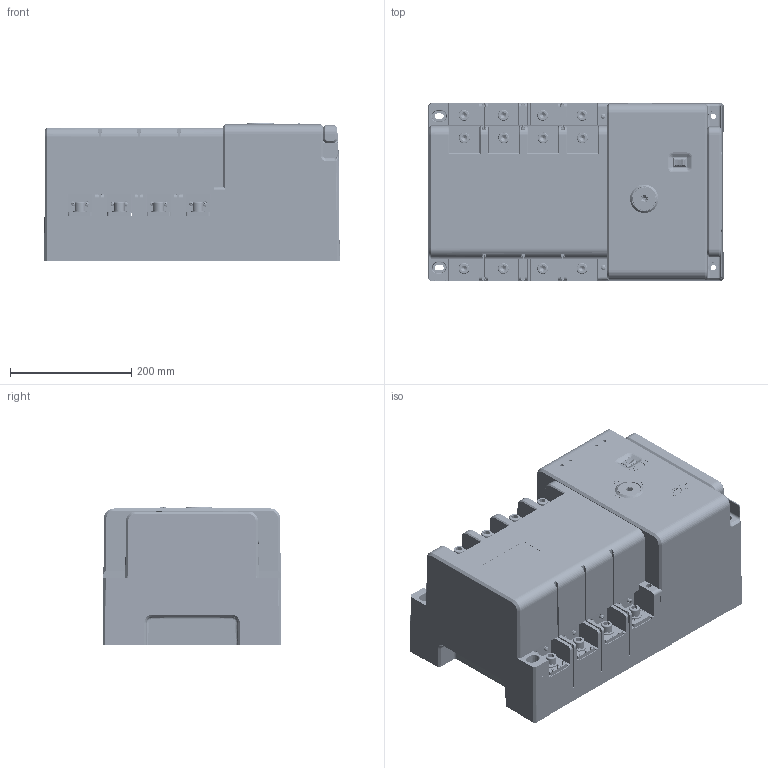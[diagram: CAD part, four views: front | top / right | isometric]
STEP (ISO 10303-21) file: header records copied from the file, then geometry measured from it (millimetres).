
FILE_DESCRIPTION (( 'STEP AP203' ), '1' );
FILE_NAME ('630 800-20250314.STEP', '2025-03-15T00:14:08', ( '' ), ( '' ), 'SwSTEP 2.0', 'SolidWorks 2020', '' );
FILE_SCHEMA (( 'CONFIG_CONTROL_DESIGN' ));
Length unit declared in the file: millimetre
Products named in the file (20): 630 800軞蚾(2).sldasm-Part-4; 630 800-20250314; 630 800軞蚾(2).sldasm-Part-7; 630 800軞蚾(2).sldasm-Part-1; _X2_FFFDFFFD037FFFFDFFFD_X0__A1_ASM; 630 800軞蚾(2).sldasm-Part-8; M4X8; SCALE1_2__A; cross recessed pan head screws gb(GB_CROSS_SCREWS_TYPE1 M4X20-20  H type-N); SCALE1_1__A; 630 800軞蚾(2).sldasm-Part-2; _____; 630 800軞蚾(2).sldasm-Part-5; 800_____; __-3; 800____-1; 630 800軞蚾(2).sldasm-Part-3; 630 800軞蚾(2).sldasm-Part-6; 800____; GB_FASTENER_SCREWS_HSHCS M12X30-N
Assembly tree (47 placements, depth 3):
  630 800-20250314
    _X2_FFFDFFFD037FFFFDFFFD_X0__A1_ASM
      SCALE1_1__A
      SCALE1_2__A
    630 800軞蚾(2).sldasm-Part-1
    630 800軞蚾(2).sldasm-Part-2
    630 800軞蚾(2).sldasm-Part-3
    630 800軞蚾(2).sldasm-Part-4
    630 800軞蚾(2).sldasm-Part-5
    630 800軞蚾(2).sldasm-Part-6
    630 800軞蚾(2).sldasm-Part-7
    630 800軞蚾(2).sldasm-Part-8
    800____  x4
    800_____  x4
    800____-1  x4
    _____
    __-3
    GB_FASTENER_SCREWS_HSHCS M12X30-N  x12
    M4X8  x8
    cross recessed pan head screws gb(GB_CROSS_SCREWS_TYPE1 M4X20-20  H type-N)  x2
Bounding box: 488.03 x 295.47 x 229 mm (x, y, z)
Volume: 7669871.9 mm3; surface area: 2806145.1 mm2
Topology: 88 solids, 88 shells, 30060 faces, 74877 edges, 49053 vertices
Faces by surface type: plane 26319, cylinder 1798, cone 1465, bspline 317, torus 148, sphere 13
Entity records: 427252 total; most frequent: CARTESIAN_POINT 89242, ORIENTED_EDGE 71104, DIRECTION 65255, EDGE_CURVE 35552, VECTOR 29701, LINE 29701, VERTEX_POINT 22932, AXIS2_PLACEMENT_3D 17777
